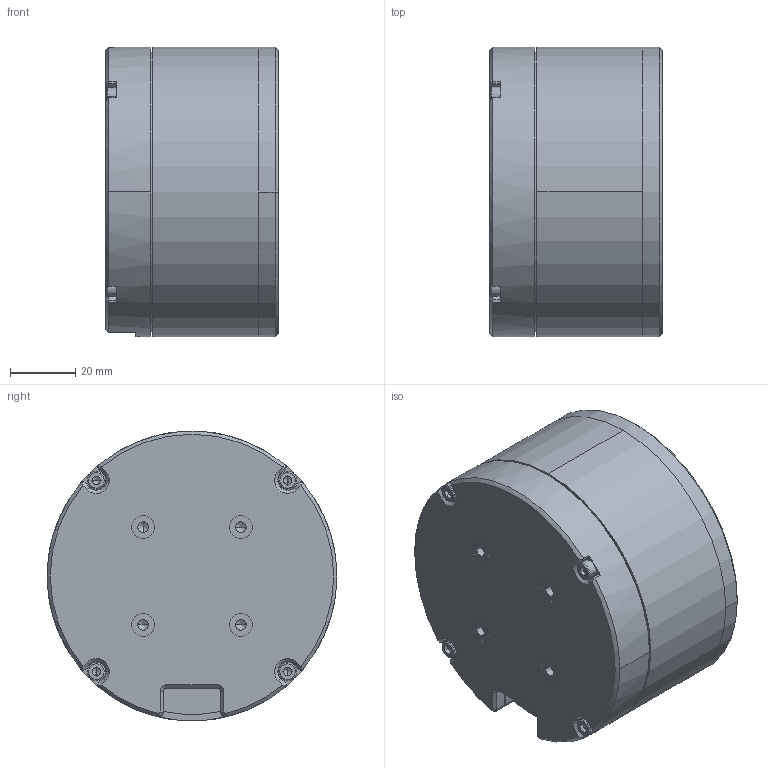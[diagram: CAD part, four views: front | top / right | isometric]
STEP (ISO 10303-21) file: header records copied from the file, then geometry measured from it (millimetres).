
FILE_DESCRIPTION (( 'STEP AP214' ), '1' );
FILE_NAME ('RMD-9025.step', '2024-01-23T08:26:20', ( '' ), ( '' ), 'SwSTEP 2.0', 'SolidWorks 2020', '' );
FILE_SCHEMA (( 'AUTOMOTIVE_DESIGN' ));
Length unit declared in the file: millimetre
Products named in the file (1): RMD-9025
Bounding box: 53 x 89 x 89 mm (x, y, z)
Volume: 81492.8 mm3; surface area: 75624.4 mm2
Topology: 9 solids, 9 shells, 469 faces, 1226 edges, 777 vertices
Faces by surface type: cylinder 220, plane 172, cone 69, bspline 8
Entity records: 14755 total; most frequent: CARTESIAN_POINT 2703, DIRECTION 2669, ORIENTED_EDGE 2400, EDGE_CURVE 1200, AXIS2_PLACEMENT_3D 1041, VERTEX_POINT 777, LINE 587, VECTOR 587
